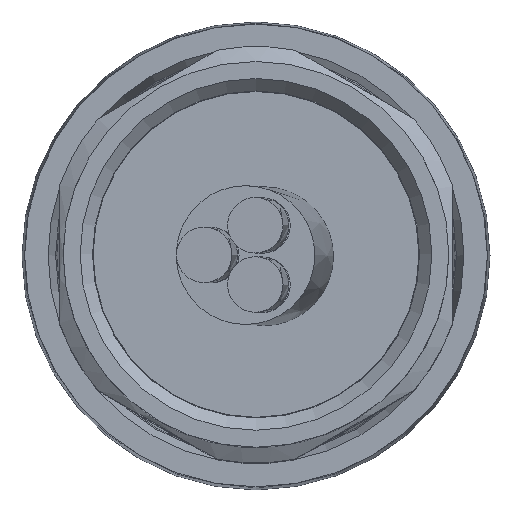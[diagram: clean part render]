
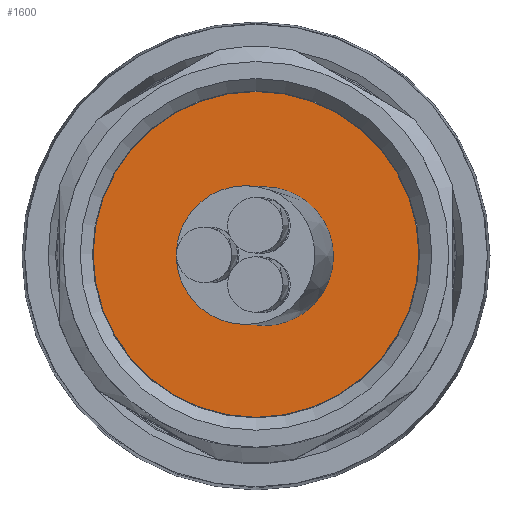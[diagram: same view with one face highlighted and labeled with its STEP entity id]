
A CAD part, top view. The second image highlights one B-rep face of the part: STEP entity #1600.
In plain terms, the highlighted planar face has unit normal (0, 0, 1).
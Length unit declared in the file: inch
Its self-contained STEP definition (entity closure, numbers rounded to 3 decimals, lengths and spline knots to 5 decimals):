
#9 = EDGE_CURVE ( 'NONE', #631, #631, #1909, .T. ) ;
#91 = FACE_OUTER_BOUND ( 'NONE', #114, .T. ) ;
#114 = EDGE_LOOP ( 'NONE', ( #1629 ) ) ;
#140 = DIRECTION ( 'NONE',  ( 0., -1., 0. ) ) ;
#499 = AXIS2_PLACEMENT_3D ( 'NONE', #1839, #1076, #140 ) ;
#631 = VERTEX_POINT ( 'NONE', #1253 ) ;
#665 = DIRECTION ( 'NONE',  ( 0., 0., 1. ) ) ;
#1076 = DIRECTION ( 'NONE',  ( 0., 0., 1. ) ) ;
#1253 = CARTESIAN_POINT ( 'NONE',  ( 0., -0.44, 3.69582 ) ) ;
#1447 = DIRECTION ( 'NONE',  ( 0., -1., 0. ) ) ;
#1600 = ADVANCED_FACE ( 'NONE', ( #91 ), #1851, .T. ) ;
#1629 = ORIENTED_EDGE ( 'NONE', *, *, #9, .T. ) ;
#1839 = CARTESIAN_POINT ( 'NONE',  ( 0., 0., 3.69582 ) ) ;
#1851 = PLANE ( 'NONE',  #2118 ) ;
#1909 = CIRCLE ( 'NONE', #499, 0.44 ) ;
#2069 = CARTESIAN_POINT ( 'NONE',  ( 0., 0., 3.69582 ) ) ;
#2118 = AXIS2_PLACEMENT_3D ( 'NONE', #2069, #665, #1447 ) ;
